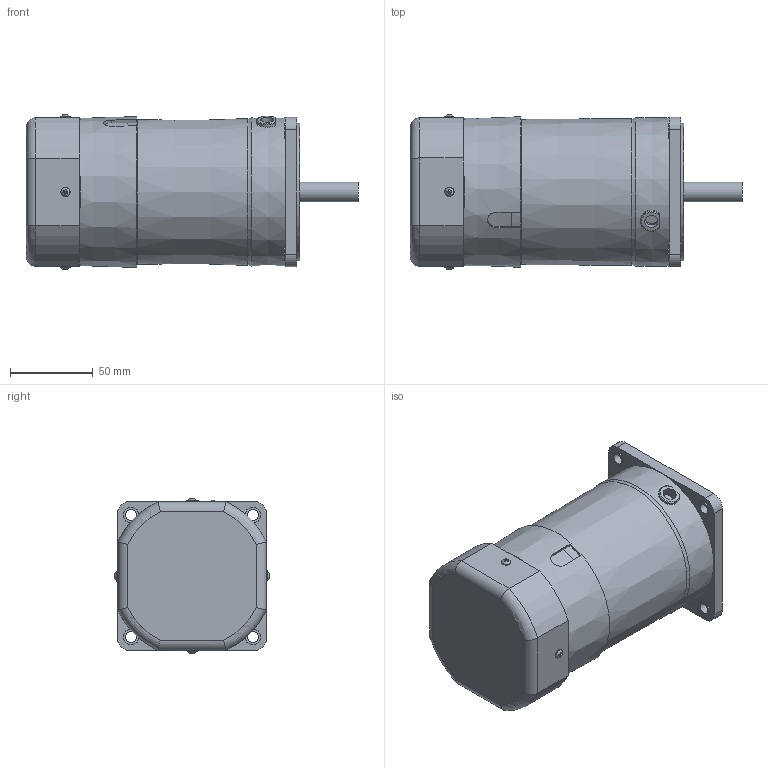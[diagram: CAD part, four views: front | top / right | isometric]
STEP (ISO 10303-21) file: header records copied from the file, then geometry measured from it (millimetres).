
FILE_DESCRIPTION((''),'2;1');
FILE_NAME('D:\김성묵\업무폴더\개발 파일\프로젝트 개발 AB등급\AC표준형 개발자료\90각 이하 표준형 개발\도면작성 자료\3D 도면\홈페이지용 3D 파일\60W MOTOR\BLACK TYPE\S9I60S-E.stp','2015-03-26T13:23:19',('smkim'),(''),'Autodesk Inventor 2012','Autodesk Inventor 2012','');
FILE_SCHEMA(('AUTOMOTIVE_DESIGN { 1 0 10303 214 1 1 1 1 }'));
Length unit declared in the file: millimetre
Products named in the file (7): S9I60S-E; S9I60GㅁCE; 6_CORD BUSH; 552300620; FAN COVER; S9I60S; 60W 전자BK COVER
Assembly tree (9 placements, depth 2):
  S9I60S-E
    S9I60GㅁCE
    6_CORD BUSH
    552300620  x4
    FAN COVER
    S9I60S
    60W 전자BK COVER
Bounding box: 200.3 x 93.49 x 93.49 mm (x, y, z)
Volume: 1175104.4 mm3; surface area: 117061.1 mm2
Topology: 9 solids, 10 shells, 241 faces, 560 edges, 363 vertices
Faces by surface type: plane 148, cylinder 61, cone 14, torus 14, bspline 4
Full cylindrical faces by diameter (mm): 3 x8, 3.5 x4, 5.6 x4, 6.5 x4, 8 x1, 9.5 x4, 10 x1, 12 x1, 28 x1, 34 x1, 40 x1, 60 x1, 66 x1, 80 x1, 83 x1, 86 x2, 86.3 x1
Entity records: 5382 total; most frequent: CARTESIAN_POINT 1275, DIRECTION 834, ORIENTED_EDGE 714, EDGE_CURVE 357, AXIS2_PLACEMENT_3D 329, EDGE_LOOP 261, VERTEX_POINT 260, FACE_OUTER_BOUND 178
